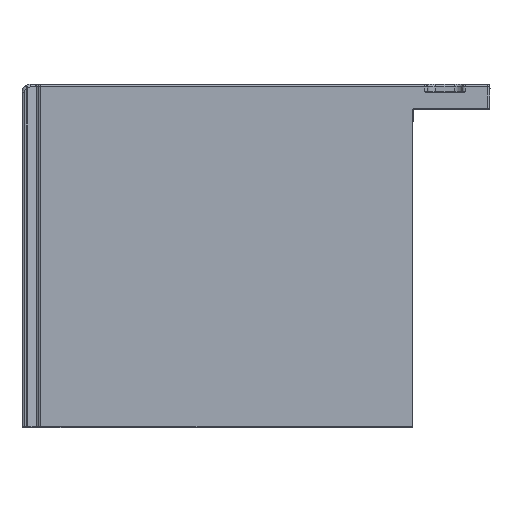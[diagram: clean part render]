
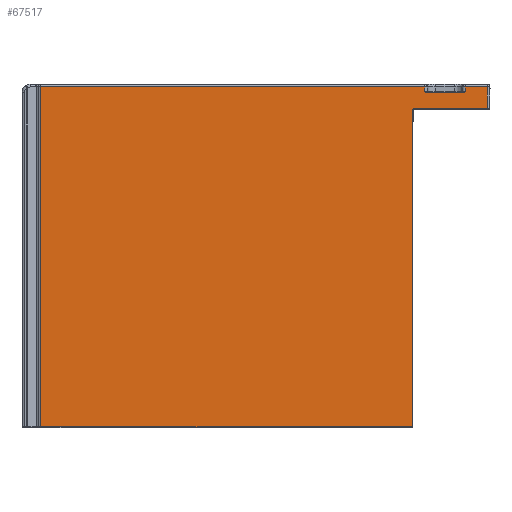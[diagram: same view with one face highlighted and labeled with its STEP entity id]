
A CAD part, top view. The second image highlights one B-rep face of the part: STEP entity #67517.
In plain terms, the highlighted planar face has unit normal (0, 0, 1).
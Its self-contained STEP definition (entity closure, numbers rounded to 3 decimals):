
#24116=DIRECTION('',(0.,-1.,0.));
#24117=VECTOR('',#24116,8.);
#24118=CARTESIAN_POINT('',(-126.2,46.,105.));
#24119=LINE('',#24118,#24117);
#24120=DIRECTION('',(1.,0.,0.));
#24121=VECTOR('',#24120,27.);
#24122=CARTESIAN_POINT('',(-153.2,38.,105.));
#24123=LINE('',#24122,#24121);
#24124=DIRECTION('',(0.,1.,0.));
#24125=VECTOR('',#24124,118.);
#24126=CARTESIAN_POINT('',(-154.2,-81.,105.));
#24127=LINE('',#24126,#24125);
#24128=DIRECTION('',(-1.,0.,0.));
#24129=VECTOR('',#24128,138.8);
#24130=CARTESIAN_POINT('',(-154.2,-81.,105.));
#24131=LINE('',#24130,#24129);
#24132=DIRECTION('',(0.,-1.,0.));
#24133=VECTOR('',#24132,127.);
#24134=CARTESIAN_POINT('',(-293.,46.,105.));
#24135=LINE('',#24134,#24133);
#24136=DIRECTION('',(-1.,0.,0.));
#24137=VECTOR('',#24136,143.5);
#24138=CARTESIAN_POINT('',(-149.5,46.,105.));
#24139=LINE('',#24138,#24137);
#24140=DIRECTION('',(0.,1.,0.));
#24141=VECTOR('',#24140,1.8);
#24142=CARTESIAN_POINT('',(-149.5,44.2,105.));
#24143=LINE('',#24142,#24141);
#24144=CARTESIAN_POINT('',(-149.202,44.,105.));
#24145=CARTESIAN_POINT('',(-149.157,43.973,
105.));
#24146=CARTESIAN_POINT('',(-149.069,43.924,
105.));
#24147=CARTESIAN_POINT('',(-148.948,43.869,
105.));
#24148=CARTESIAN_POINT('',(-148.834,43.831,
105.));
#24149=CARTESIAN_POINT('',(-148.723,43.807,
105.));
#24150=CARTESIAN_POINT('',(-148.645,43.8,
105.));
#24151=CARTESIAN_POINT('',(-148.606,43.8,105.));
#24153=DIRECTION('',(1.,0.,0.));
#24154=VECTOR('',#24153,13.211);
#24155=CARTESIAN_POINT('',(-148.606,43.8,105.));
#24156=LINE('',#24155,#24154);
#24157=CARTESIAN_POINT('',(-135.394,43.8,105.));
#24158=CARTESIAN_POINT('',(-135.371,43.8,
105.));
#24159=CARTESIAN_POINT('',(-135.322,43.802,
105.));
#24160=CARTESIAN_POINT('',(-135.242,43.814,
105.));
#24161=CARTESIAN_POINT('',(-135.159,43.834,
105.));
#24162=CARTESIAN_POINT('',(-135.076,43.861,
105.));
#24163=CARTESIAN_POINT('',(-134.989,43.897,
105.));
#24164=CARTESIAN_POINT('',(-134.897,43.942,
105.));
#24165=CARTESIAN_POINT('',(-134.832,43.98,
105.));
#24166=CARTESIAN_POINT('',(-134.798,44.,105.));
#24168=DIRECTION('',(0.,-1.,0.));
#24169=VECTOR('',#24168,1.8);
#24170=CARTESIAN_POINT('',(-134.5,46.,105.));
#24171=LINE('',#24170,#24169);
#24172=DIRECTION('',(-1.,0.,0.));
#24173=VECTOR('',#24172,8.3);
#24174=CARTESIAN_POINT('',(-126.2,46.,105.));
#24175=LINE('',#24174,#24173);
#24258=CARTESIAN_POINT('',(-134.5,44.2,105.));
#24265=CARTESIAN_POINT('',(-134.798,44.,105.));
#24266=CARTESIAN_POINT('',(-134.761,44.022,
105.));
#24267=CARTESIAN_POINT('',(-134.69,44.068,
105.));
#24268=CARTESIAN_POINT('',(-134.59,44.136,
105.));
#24269=CARTESIAN_POINT('',(-134.529,44.179,
105.));
#24270=CARTESIAN_POINT('',(-134.5,44.2,105.));
#24949=CARTESIAN_POINT('',(-153.2,37.,105.));
#24950=DIRECTION('',(0.,0.,-1.));
#24951=DIRECTION('',(-1.,0.,0.));
#24952=AXIS2_PLACEMENT_3D('',#24949,#24950,#24951);
#26920=CARTESIAN_POINT('',(-149.5,44.2,105.));
#26922=CARTESIAN_POINT('',(-149.5,44.2,105.));
#26923=CARTESIAN_POINT('',(-149.467,44.176,
105.));
#26924=CARTESIAN_POINT('',(-149.4,44.13,
105.));
#26925=CARTESIAN_POINT('',(-149.3,44.061,
105.));
#26926=CARTESIAN_POINT('',(-149.235,44.02,
105.));
#26927=CARTESIAN_POINT('',(-149.202,44.,105.));
#30298=CARTESIAN_POINT('',(-154.2,-81.,105.));
#30299=VERTEX_POINT('',#30298);
#31262=CARTESIAN_POINT('',(-134.5,46.,105.));
#31263=VERTEX_POINT('',#31262);
#31266=VERTEX_POINT('',#26920);
#31267=VERTEX_POINT('',#24258);
#31478=CARTESIAN_POINT('',(-293.,-81.,105.));
#31480=VERTEX_POINT('',#31478);
#31560=CARTESIAN_POINT('',(-293.,46.,105.));
#31561=VERTEX_POINT('',#31560);
#31574=CARTESIAN_POINT('',(-149.5,46.,105.));
#31575=VERTEX_POINT('',#31574);
#31579=CARTESIAN_POINT('',(-153.2,38.,105.));
#31581=VERTEX_POINT('',#31579);
#31583=CARTESIAN_POINT('',(-154.2,37.,105.));
#31585=VERTEX_POINT('',#31583);
#33129=CARTESIAN_POINT('',(-126.2,38.,105.));
#33131=VERTEX_POINT('',#33129);
#33132=CARTESIAN_POINT('',(-126.2,46.,105.));
#33133=VERTEX_POINT('',#33132);
#36920=CARTESIAN_POINT('',(-148.606,43.8,105.));
#36921=CARTESIAN_POINT('',(-135.394,43.8,105.));
#36922=VERTEX_POINT('',#36920);
#36923=VERTEX_POINT('',#36921);
#36924=VERTEX_POINT('',#24144);
#36925=VERTEX_POINT('',#24166);
#67484=CARTESIAN_POINT('',(0.,0.,105.));
#67485=DIRECTION('',(0.,0.,1.));
#67486=DIRECTION('',(1.,0.,0.));
#67487=AXIS2_PLACEMENT_3D('',#67484,#67485,#67486);
#67488=PLANE('',#67487);
#67490=ORIENTED_EDGE('',*,*,#67489,.T.);
#67491=ORIENTED_EDGE('',*,*,#38412,.F.);
#67493=ORIENTED_EDGE('',*,*,#67492,.F.);
#67495=ORIENTED_EDGE('',*,*,#67494,.F.);
#67496=ORIENTED_EDGE('',*,*,#40532,.T.);
#67498=ORIENTED_EDGE('',*,*,#67497,.F.);
#67500=ORIENTED_EDGE('',*,*,#67499,.F.);
#67502=ORIENTED_EDGE('',*,*,#67501,.F.);
#67504=ORIENTED_EDGE('',*,*,#67503,.T.);
#67505=ORIENTED_EDGE('',*,*,#67463,.T.);
#67506=ORIENTED_EDGE('',*,*,#67475,.T.);
#67508=ORIENTED_EDGE('',*,*,#67507,.T.);
#67510=ORIENTED_EDGE('',*,*,#67509,.T.);
#67512=ORIENTED_EDGE('',*,*,#67511,.F.);
#67514=ORIENTED_EDGE('',*,*,#67513,.F.);
#67515=EDGE_LOOP('',(#67490,#67491,#67493,#67495,#67496,#67498,#67500,#67502,
#67504,#67505,#67506,#67508,#67510,#67512,#67514));
#67516=FACE_OUTER_BOUND('',#67515,.F.);
#67517=ADVANCED_FACE('',(#67516),#67488,.T.);
#24152=B_SPLINE_CURVE_WITH_KNOTS('',3,(#24144,#24145,#24146,#24147,#24148,
#24149,#24150,#24151),.UNSPECIFIED.,.F.,.F.,(4,1,1,1,1,4),(0.,0.2,0.4,
0.6,0.8,1.),.UNSPECIFIED.);
#24167=B_SPLINE_CURVE_WITH_KNOTS('',3,(#24157,#24158,#24159,#24160,#24161,
#24162,#24163,#24164,#24165,#24166),.UNSPECIFIED.,.F.,.F.,(4,1,1,1,1,1,1,4),(
0.,0.143,0.286,0.429,0.571,
0.714,0.857,1.),.UNSPECIFIED.);
#24271=B_SPLINE_CURVE_WITH_KNOTS('',3,(#24265,#24266,#24267,#24268,#24269,
#24270),.UNSPECIFIED.,.F.,.F.,(4,1,1,4),(0.,0.333,
0.667,1.),.UNSPECIFIED.);
#24953=CIRCLE('',#24952,1.);
#26928=B_SPLINE_CURVE_WITH_KNOTS('',3,(#26922,#26923,#26924,#26925,#26926,
#26927),.UNSPECIFIED.,.F.,.F.,(4,1,1,4),(0.,0.333,
0.667,1.),.UNSPECIFIED.);
#38412=EDGE_CURVE('',#31581,#33131,#24123,.T.);
#40532=EDGE_CURVE('',#30299,#31480,#24131,.T.);
#67463=EDGE_CURVE('',#36924,#36922,#24152,.T.);
#67475=EDGE_CURVE('',#36922,#36923,#24156,.T.);
#67489=EDGE_CURVE('',#33133,#33131,#24119,.T.);
#67492=EDGE_CURVE('',#31585,#31581,#24953,.T.);
#67494=EDGE_CURVE('',#30299,#31585,#24127,.T.);
#67497=EDGE_CURVE('',#31561,#31480,#24135,.T.);
#67499=EDGE_CURVE('',#31575,#31561,#24139,.T.);
#67501=EDGE_CURVE('',#31266,#31575,#24143,.T.);
#67503=EDGE_CURVE('',#31266,#36924,#26928,.T.);
#67507=EDGE_CURVE('',#36923,#36925,#24167,.T.);
#67509=EDGE_CURVE('',#36925,#31267,#24271,.T.);
#67511=EDGE_CURVE('',#31263,#31267,#24171,.T.);
#67513=EDGE_CURVE('',#33133,#31263,#24175,.T.);
